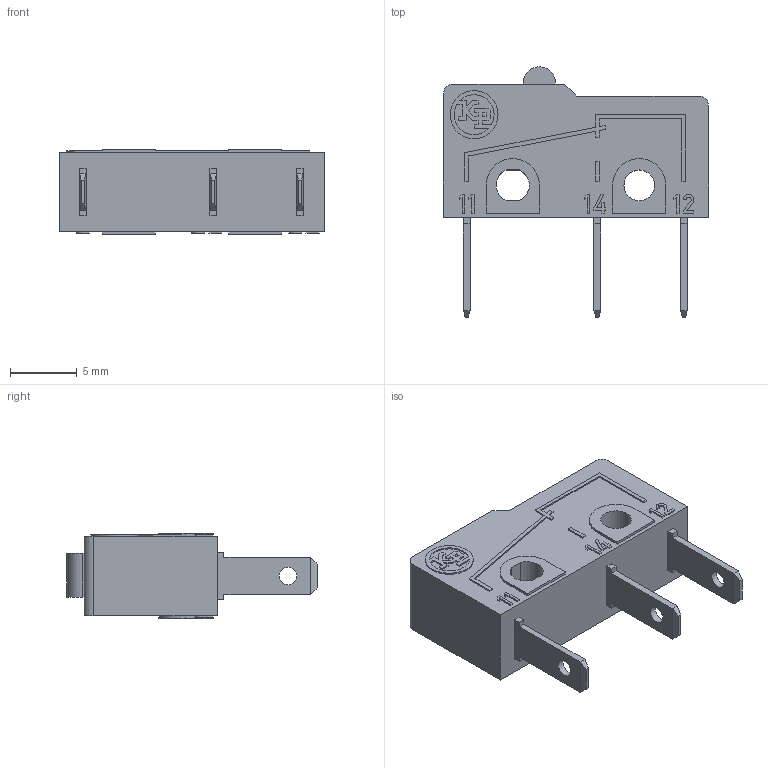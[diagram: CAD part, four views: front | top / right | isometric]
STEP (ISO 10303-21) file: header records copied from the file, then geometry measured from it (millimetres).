
FILE_DESCRIPTION(('Microrutor Subminiatura Pino'),'2;1');
FILE_NAME('E:\WorkFolder\Serie\MM\STEP\kp_mm_mm#a#f.stp','2010-08-25T16:23:07',('DIE'),('KAP'),'Autodesk Inventor 10','Autodesk Inventor 10','Direitos reservados. Proibido reproduo, cedncia ou revelao de contedo a terceiros, salvo com autorizao. ');
FILE_SCHEMA(('AUTOMOTIVE_DESIGN { 1 0 10303 214 1 1 1 1 }'));
Length unit declared in the file: millimetre
Products named in the file (3): MM#A#F; MM_Involucro_A; MM_Terminal_F
Assembly tree (4 placements, depth 2):
  MM#A#F
    MM_Involucro_A
    MM_Terminal_F  x3
Bounding box: 19.9 x 18.8 x 6.4 mm (x, y, z)
Volume: 1129.8 mm3; surface area: 1032.7 mm2
Topology: 4 solids, 4 shells, 279 faces, 721 edges, 477 vertices
Faces by surface type: plane 249, cylinder 29, bspline 1
Full cylindrical faces by diameter (mm): 1.3 x3, 3.6 x1
Entity records: 7630 total; most frequent: CARTESIAN_POINT 1352, ORIENTED_EDGE 1294, DIRECTION 1213, EDGE_CURVE 647, VECTOR 591, LINE 591, VERTEX_POINT 432, AXIS2_PLACEMENT_3D 311
